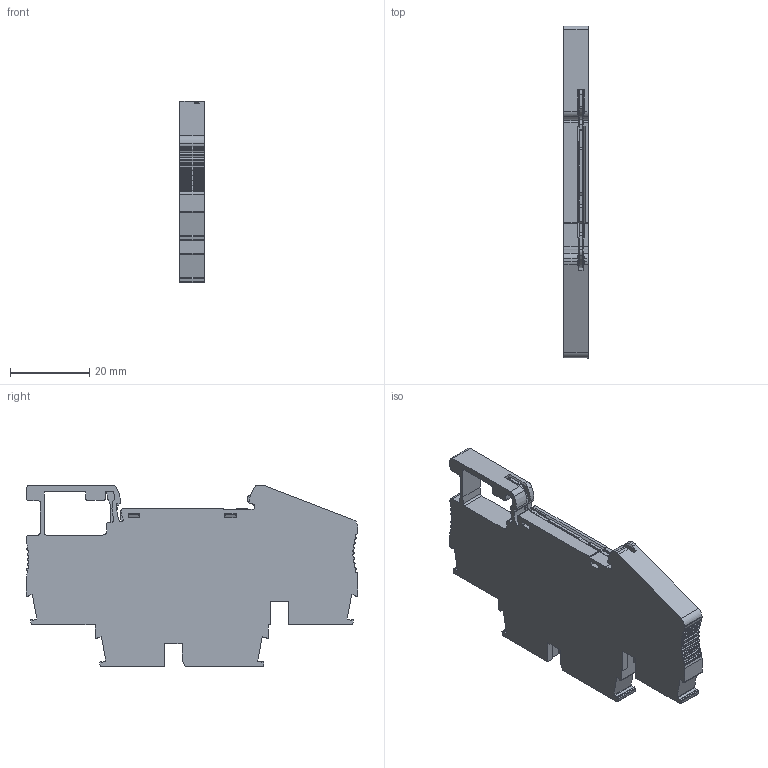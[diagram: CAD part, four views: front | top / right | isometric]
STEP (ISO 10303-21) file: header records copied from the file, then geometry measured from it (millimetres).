
FILE_DESCRIPTION(/* description */ (''),/* implementation_level */ '2;1');
FILE_NAME(/* name */ 'UPT-4-2PE ASSY.stp',/* time_stamp */ '2024-04-26T15:25:31+08:00',/* author */ (''),/* organization */ (''),/* preprocessor_version */ 'ST-DEVELOPER v16.7',/* originating_system */ 'SIEMENS PLM Software NX 12.0',/* authorisation */ '');
FILE_SCHEMA (('AUTOMOTIVE_DESIGN { 1 0 10303 214 3 1 1 1 }'));
Length unit declared in the file: millimetre
Products named in the file (1): Admi0EB4BAB8ixtv
Bounding box: 6.2 x 83.65 x 45.85 mm (x, y, z)
Volume: 15409.1 mm3; surface area: 11020.2 mm2
Topology: 1 solids, 2 shells, 1165 faces, 3322 edges, 2168 vertices
Faces by surface type: plane 687, cylinder 398, cone 40, torus 32, bspline 8
Entity records: 39513 total; most frequent: CARTESIAN_POINT 8846, ORIENTED_EDGE 6596, DIRECTION 6275, EDGE_CURVE 3298, LINE 2293, VECTOR 2293, VERTEX_POINT 2160, AXIS2_PLACEMENT_3D 1991
